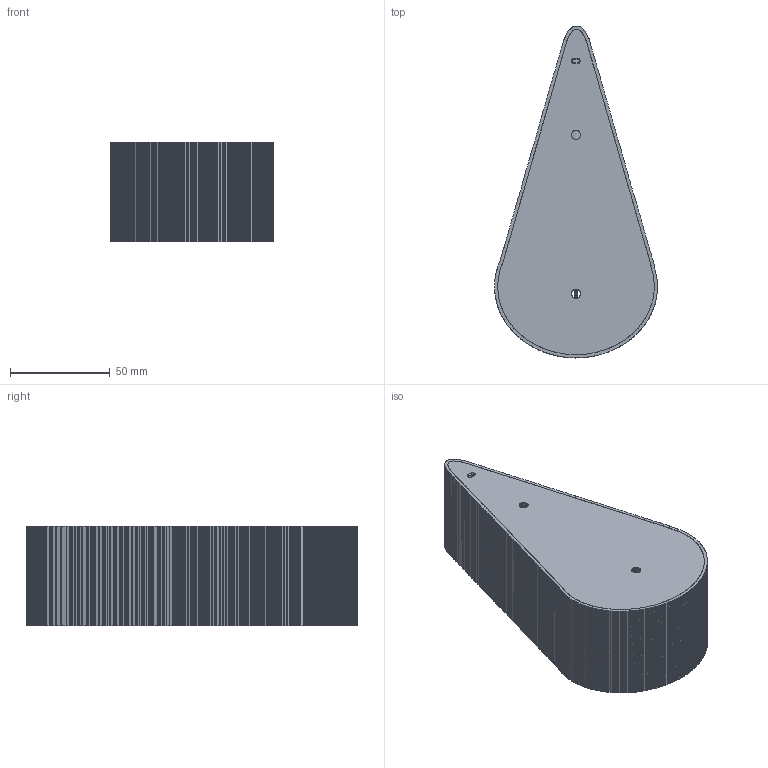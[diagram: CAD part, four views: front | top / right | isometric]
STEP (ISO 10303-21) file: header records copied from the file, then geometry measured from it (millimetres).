
FILE_DESCRIPTION(('Open CASCADE Model'),'2;1');
FILE_NAME('pinrose_unit_v4','2026-11-23T07:26:26',('Author'),( 'Open CASCADE'),'Open CASCADE STEP processor 8.0','build123d', 'Unknown');
FILE_SCHEMA(('AUTOMOTIVE_DESIGN { 1 0 10303 214 1 1 1 1 }'));
Length unit declared in the file: millimetre
Products named in the file (9): pinrose_unit_v4; pinrus_v4_cover; pinruswall_v4_bracket; motor_strap_v4_a; motor_strap_v4_b; pinruso_ring; motor_placeholder_D22x55; coupler_placeholder; crank_wire_placeholder
Assembly tree (8 placements, depth 2):
  pinrose_unit_v4
    pinrus_v4_cover
    pinruswall_v4_bracket
    motor_strap_v4_a
    motor_strap_v4_b
    pinruso_ring
    motor_placeholder_D22x55
    coupler_placeholder
    crank_wire_placeholder
Bounding box: 81.6 x 166.03 x 50 mm (x, y, z)
Volume: 108380.3 mm3; surface area: 86774 mm2
Topology: 8 solids, 8 shells, 7240 faces, 18917 edges, 11708 vertices
Faces by surface type: plane 7236, cylinder 4
Full cylindrical faces by diameter (mm): 4 x1, 7 x1, 10 x1, 22 x1
Entity records: 457735 total; most frequent: CARTESIAN_POINT 78087, DIRECTION 68878, LINE 54356, VECTOR 54356, ORIENTED_EDGE 37834, PCURVE 37834, DEFINITIONAL_REPRESENTATION 37834, EDGE_CURVE 18917
